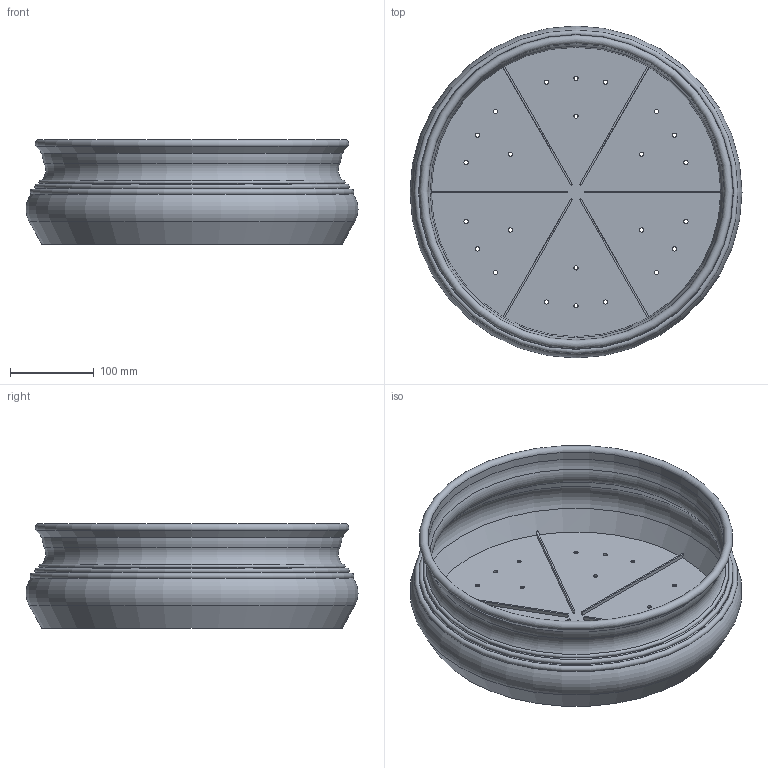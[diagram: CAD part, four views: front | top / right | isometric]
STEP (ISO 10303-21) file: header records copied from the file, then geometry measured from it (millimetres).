
FILE_DESCRIPTION(/* description */ (''),/* implementation_level */ '2;1');
FILE_NAME(/* name */ 'LR2406-S20-H125-D400_step.step',/* time_stamp */ '2024-02-01T11:02:07+01:00',/* author */ (''),/* organization */ (''),/* preprocessor_version */ 'ST-DEVELOPER v20',/* originating_system */ 'Autodesk Translation Framework v12.20.1.177',/* authorisation */ '');
FILE_SCHEMA (('AUTOMOTIVE_DESIGN { 1 0 10303 214 3 1 1 }'));
Length unit declared in the file: millimetre
Products named in the file (1): LR2406-S20-H125-D400
Bounding box: 395.99 x 395.99 x 125 mm (x, y, z)
Volume: 669015.7 mm3; surface area: 542893.7 mm2
Topology: 1 solids, 1 shells, 68 faces, 181 edges, 115 vertices
Faces by surface type: cylinder 31, plane 20, torus 10, cone 7
Full cylindrical faces by diameter (mm): 5 x24, 354 x1
Entity records: 2286 total; most frequent: DIRECTION 420, CARTESIAN_POINT 365, ORIENTED_EDGE 362, EDGE_CURVE 181, AXIS2_PLACEMENT_3D 170, EDGE_LOOP 116, VERTEX_POINT 115, CIRCLE 101
